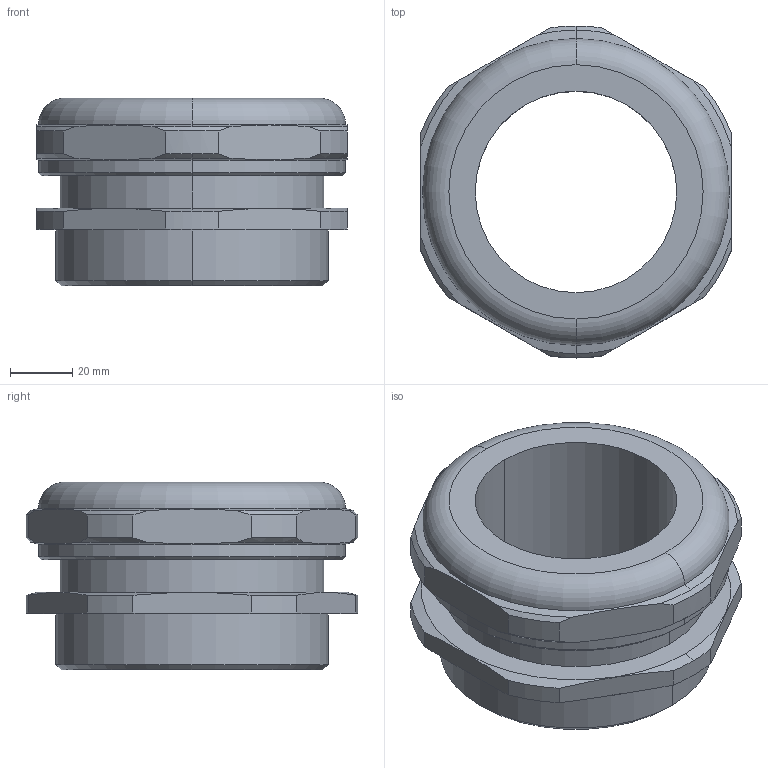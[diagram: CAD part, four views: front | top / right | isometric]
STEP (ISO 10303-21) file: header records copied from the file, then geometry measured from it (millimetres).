
FILE_DESCRIPTION (( 'STEP AP203' ), '1' );
FILE_NAME ('101087.STEP', '2006-10-09T12:50:35', ( ' ' ), ( '' ), 'SwSTEP 2.0', 'SolidWorks 2005278', '' );
FILE_SCHEMA (( 'CONFIG_CONTROL_DESIGN' ));
Length unit declared in the file: millimetre
Products named in the file (1): 101087
Bounding box: 100 x 107 x 60.5 mm (x, y, z)
Volume: 221708.8 mm3; surface area: 43831.6 mm2
Topology: 1 solids, 1 shells, 106 faces, 279 edges, 181 vertices
Faces by surface type: plane 54, cone 28, cylinder 22, torus 2
Entity records: 3447 total; most frequent: CARTESIAN_POINT 767, ORIENTED_EDGE 558, DIRECTION 524, EDGE_CURVE 279, AXIS2_PLACEMENT_3D 186, VERTEX_POINT 181, VECTOR 152, LINE 152
